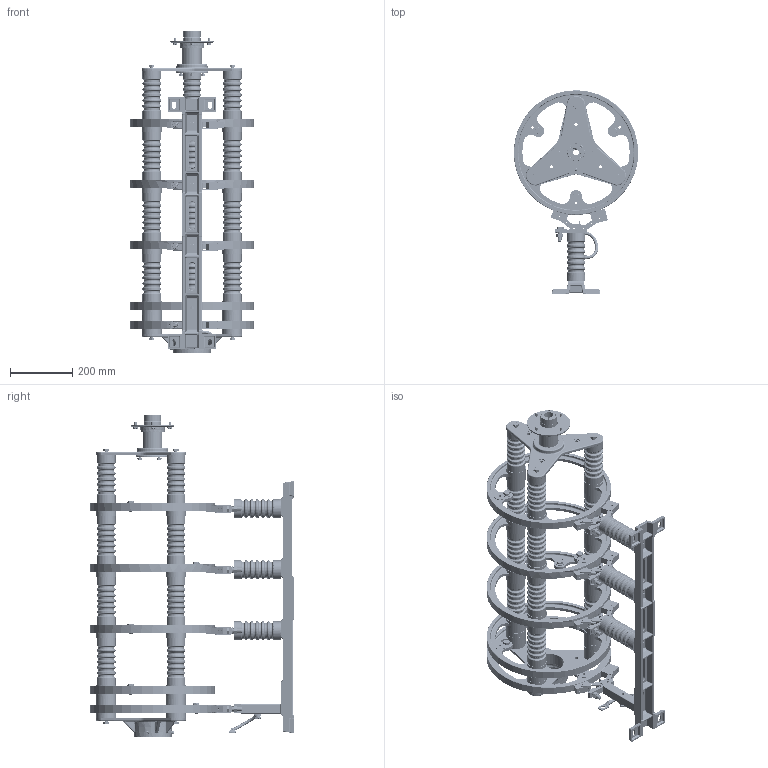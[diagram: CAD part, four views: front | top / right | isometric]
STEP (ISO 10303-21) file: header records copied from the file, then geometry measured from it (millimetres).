
FILE_DESCRIPTION(/* description */ (''),/* implementation_level */ '2;1');
FILE_NAME(/* name */ 'K:\MANDARIC\77620 SINGLE.stp',/* time_stamp */ '2017-12-01T10:56:42+01:00',/* author */ ('milman01'),/* organization */ ('Hillmar Industries Ltd.'),/* preprocessor_version */ 'ST-DEVELOPER v16.1',/* originating_system */ 'Autodesk Inventor 2016',/* authorisation */ '');
FILE_SCHEMA (('AUTOMOTIVE_DESIGN { 1 0 10303 214 3 1 1 }'));
Products named in the file (1): 77620 PSR-15KV-4B-400A SLIPRING ASSEMBLY
Bounding box: 400 x 653 x 1034.6 mm (x, y, z)
Volume: 13665539 mm3; surface area: 2023006.1 mm2
Topology: 3 solids, 31 shells, 3794 faces, 8869 edges, 5357 vertices
Faces by surface type: plane 1216, cylinder 1016, bspline 521, cone 504, torus 441, sphere 96
Full cylindrical faces by diameter (mm): 4 x16, 4.5 x16, 4.917 x4, 5 x40, 6.6 x4, 6.647 x3, 7.323 x7, 8 x7, 8.376 x43, 9 x5, 9.188 x3, 10 x11, 10.106 x1, 10.5 x9, 11 x16, 11.053 x6, 11.4 x7, 12 x14, 13 x8, 13.5 x2, 15.4 x3, 17.2 x6, 17.5 x3, 18 x1, 19 x4, 23 x13, 24 x10, 30 x1, 44.45 x6, 44.46 x6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
Entity records: 108783 total; most frequent: CARTESIAN_POINT 26924, DIRECTION 15698, ORIENTED_EDGE 14796, EDGE_CURVE 7399, AXIS2_PLACEMENT_3D 6338, EDGE_LOOP 5448, VERTEX_POINT 5131, STYLED_ITEM 3796
